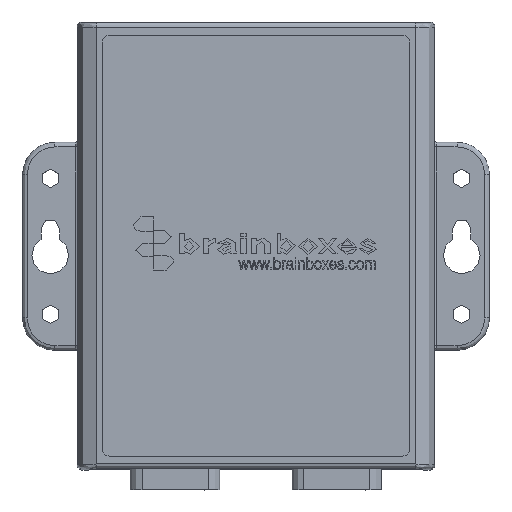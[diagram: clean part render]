
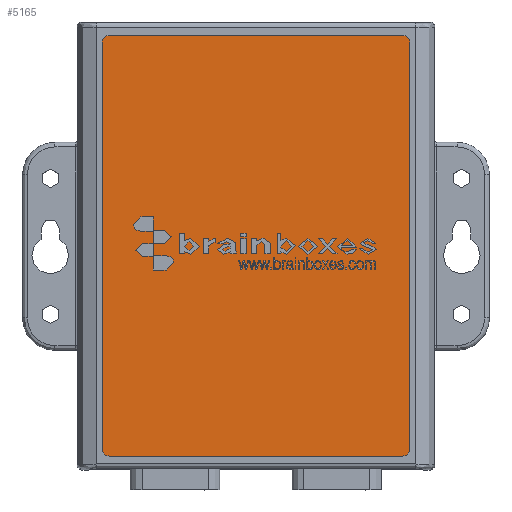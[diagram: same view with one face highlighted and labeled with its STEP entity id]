
A CAD part, top view. The second image highlights one B-rep face of the part: STEP entity #5165.
In plain terms, the highlighted planar face has unit normal (0, 0, 1) as drawn and (0, 1, 0) by its records, which use the part's own axes.
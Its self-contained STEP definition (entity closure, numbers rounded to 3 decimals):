
#5165=ADVANCED_FACE('',(#10486),#10487,.T.);
#10486=FACE_OUTER_BOUND('',#21117,.T.);
#10487=PLANE('',#21118);
#21117=EDGE_LOOP('',(#34414,#34415,#34416,#34417,#34418,#34419,#34420,#34421));
#21118=AXIS2_PLACEMENT_3D('',#34422,#34423,#34424);
#34414=ORIENTED_EDGE('',*,*,#43223,.T.);
#34415=ORIENTED_EDGE('',*,*,#43244,.T.);
#34416=ORIENTED_EDGE('',*,*,#43241,.T.);
#34417=ORIENTED_EDGE('',*,*,#43238,.T.);
#34418=ORIENTED_EDGE('',*,*,#43235,.T.);
#34419=ORIENTED_EDGE('',*,*,#43232,.T.);
#34420=ORIENTED_EDGE('',*,*,#43229,.T.);
#34421=ORIENTED_EDGE('',*,*,#43226,.T.);
#34422=CARTESIAN_POINT('',(-31.75,-0.5,44.05));
#34423=DIRECTION('',(0.0,1.0,0.0));
#34424=DIRECTION('',(1.0,0.0,-0.0));
#43223=EDGE_CURVE('',#51837,#51835,#51838,.T.);
#43226=EDGE_CURVE('',#51841,#51837,#51842,.T.);
#43229=EDGE_CURVE('',#51845,#51841,#51846,.T.);
#43232=EDGE_CURVE('',#51849,#51845,#51850,.T.);
#43235=EDGE_CURVE('',#51853,#51849,#51854,.T.);
#43238=EDGE_CURVE('',#51857,#51853,#51858,.T.);
#43241=EDGE_CURVE('',#51861,#51857,#51862,.T.);
#43244=EDGE_CURVE('',#51835,#51861,#51865,.T.);
#51835=VERTEX_POINT('',#66294);
#51837=VERTEX_POINT('',#66297);
#51838=CIRCLE('',#66298,1.5);
#51841=VERTEX_POINT('',#66302);
#51842=LINE('',#66303,#66304);
#51845=VERTEX_POINT('',#66308);
#51846=CIRCLE('',#66309,1.5);
#51849=VERTEX_POINT('',#66313);
#51850=LINE('',#66314,#66315);
#51853=VERTEX_POINT('',#66319);
#51854=CIRCLE('',#66320,1.5);
#51857=VERTEX_POINT('',#66324);
#51858=LINE('',#66325,#66326);
#51861=VERTEX_POINT('',#66330);
#51862=CIRCLE('',#66331,1.5);
#51865=LINE('',#66335,#66336);
#66294=CARTESIAN_POINT('',(-31.75,-0.5,45.55));
#66297=CARTESIAN_POINT('',(-33.25,-0.5,44.05));
#66298=AXIS2_PLACEMENT_3D('',#73190,#73191,#73192);
#66302=CARTESIAN_POINT('',(-33.25,-0.5,-44.05));
#66303=CARTESIAN_POINT('',(-33.25,-0.5,-44.05));
#66304=VECTOR('',#73194,1.0);
#66308=CARTESIAN_POINT('',(-31.75,-0.5,-45.55));
#66309=AXIS2_PLACEMENT_3D('',#73196,#73197,#73198);
#66313=CARTESIAN_POINT('',(31.75,-0.5,-45.55));
#66314=CARTESIAN_POINT('',(-31.75,-0.5,-45.55));
#66315=VECTOR('',#73200,1.0);
#66319=CARTESIAN_POINT('',(33.25,-0.5,-44.05));
#66320=AXIS2_PLACEMENT_3D('',#73202,#73203,#73204);
#66324=CARTESIAN_POINT('',(33.25,-0.5,44.05));
#66325=CARTESIAN_POINT('',(33.25,-0.5,-44.05));
#66326=VECTOR('',#73206,1.0);
#66330=CARTESIAN_POINT('',(31.75,-0.5,45.55));
#66331=AXIS2_PLACEMENT_3D('',#73208,#73209,#73210);
#66335=CARTESIAN_POINT('',(-31.75,-0.5,45.55));
#66336=VECTOR('',#73212,1.0);
#73190=CARTESIAN_POINT('',(-31.75,-0.5,44.05));
#73191=DIRECTION('',(0.0,1.0,0.0));
#73192=DIRECTION('',(0.0,-0.0,1.0));
#73194=DIRECTION('',(0.,0.0,1.0));
#73196=CARTESIAN_POINT('',(-31.75,-0.5,-44.05));
#73197=DIRECTION('',(0.0,1.0,0.0));
#73198=DIRECTION('',(0.0,0.0,-1.0));
#73200=DIRECTION('',(-1.0,0.0,0.0));
#73202=CARTESIAN_POINT('',(31.75,-0.5,-44.05));
#73203=DIRECTION('',(0.0,1.0,0.0));
#73204=DIRECTION('',(0.0,-0.0,1.0));
#73206=DIRECTION('',(0.,0.0,-1.0));
#73208=CARTESIAN_POINT('',(31.75,-0.5,44.05));
#73209=DIRECTION('',(0.0,1.0,0.0));
#73210=DIRECTION('',(0.0,-0.0,1.0));
#73212=DIRECTION('',(1.0,0.0,0.0));
